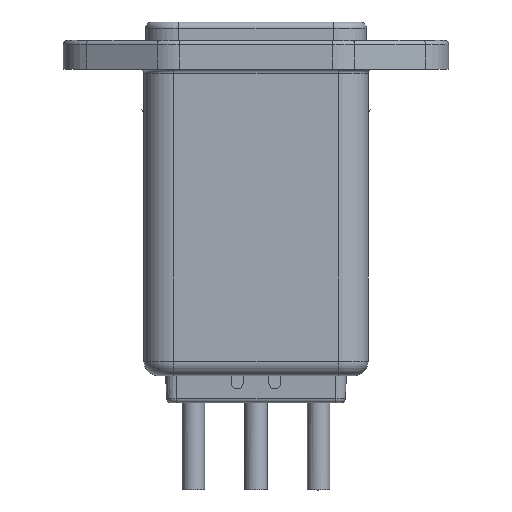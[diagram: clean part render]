
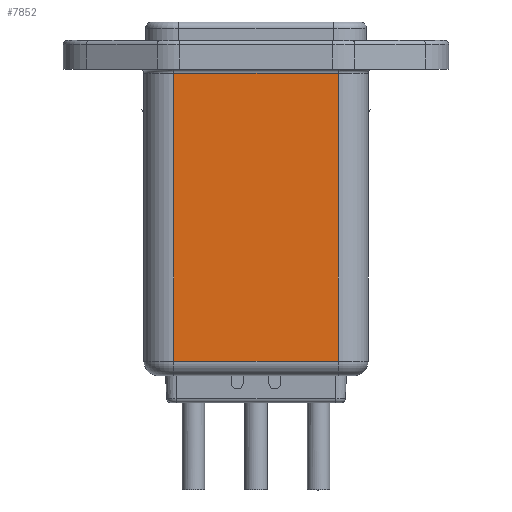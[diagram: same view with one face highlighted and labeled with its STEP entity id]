
A CAD part, left-side view. The second image highlights one B-rep face of the part: STEP entity #7852.
In plain terms, the highlighted planar face has unit normal (-1, 0, 0).
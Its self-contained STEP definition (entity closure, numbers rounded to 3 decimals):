
#6054=CARTESIAN_POINT('',(21.718,-5.441,54.241));
#6055=VERTEX_POINT('',#6054);
#6098=CARTESIAN_POINT('',(21.718,15.059,54.241));
#6099=VERTEX_POINT('',#6098);
#6107=CARTESIAN_POINT('',(21.718,15.059,54.241));
#6108=DIRECTION('',(0.0,-1.0,0.0));
#6109=VECTOR('',#6108,20.5);
#6110=LINE('',#6107,#6109);
#6111=EDGE_CURVE('',#6099,#6055,#6110,.T.);
#6544=CARTESIAN_POINT('',(21.718,-5.441,18.391));
#6545=VERTEX_POINT('',#6544);
#6546=CARTESIAN_POINT('',(21.718,-5.441,54.241));
#6547=DIRECTION('',(0.0,0.0,-1.0));
#6548=VECTOR('',#6547,35.85);
#6549=LINE('',#6546,#6548);
#6550=EDGE_CURVE('',#6055,#6545,#6549,.T.);
#7098=CARTESIAN_POINT('',(21.718,15.059,18.391));
#7099=VERTEX_POINT('',#7098);
#7164=CARTESIAN_POINT('',(21.718,-5.441,18.391));
#7165=DIRECTION('',(0.0,1.0,0.0));
#7166=VECTOR('',#7165,20.5);
#7167=LINE('',#7164,#7166);
#7168=EDGE_CURVE('',#6545,#7099,#7167,.T.);
#7832=CARTESIAN_POINT('',(21.718,15.059,54.241));
#7833=DIRECTION('',(0.0,0.0,-1.0));
#7834=VECTOR('',#7833,35.85);
#7835=LINE('',#7832,#7834);
#7836=EDGE_CURVE('',#6099,#7099,#7835,.T.);
#7841=CARTESIAN_POINT('',(21.718,15.059,55.241));
#7842=DIRECTION('',(-1.0,0.0,0.0));
#7843=DIRECTION('',(0.0,1.0,0.0));
#7844=AXIS2_PLACEMENT_3D('',#7841,#7842,#7843);
#7845=PLANE('',#7844);
#7846=ORIENTED_EDGE('',*,*,#6111,.F.);
#7847=ORIENTED_EDGE('',*,*,#7836,.T.);
#7848=ORIENTED_EDGE('',*,*,#7168,.F.);
#7849=ORIENTED_EDGE('',*,*,#6550,.F.);
#7850=EDGE_LOOP('',(#7846,#7847,#7848,#7849));
#7851=FACE_OUTER_BOUND('',#7850,.T.);
#7852=ADVANCED_FACE('',(#7851),#7845,.T.);
